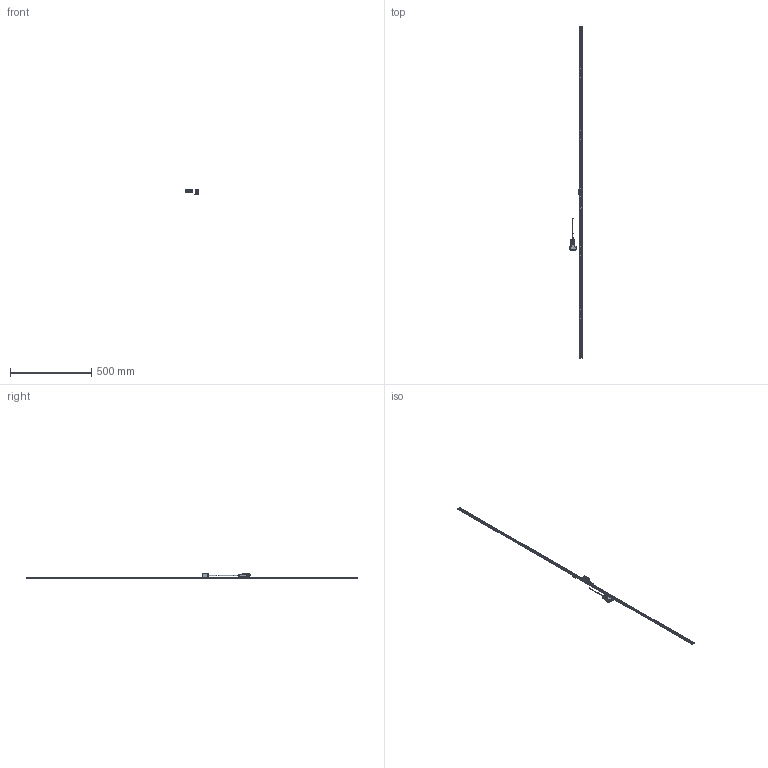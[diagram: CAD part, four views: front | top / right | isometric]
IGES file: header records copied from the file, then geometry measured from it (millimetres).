
Start section: Elysium IGES Interface
Global section: file name: 92HK:\20_商品設計\設計１課\個人\山室\05_作業中雑務\20220810_ST1300 3D HP掲載\ST1300-2000F_G.igs; native system: Creo Elements/Direct Modeling 18.1I  13-Aug-2016; preprocessor: Creo Element/Direct IGES_3D V2.2; author: Unknown; organization: Unknown; date: 20220816.111041; units: millimetre
Bounding box: 83 x 2040 x 30.1 mm (x, y, z)
Volume: 188272.9 mm3; surface area: 111446.3 mm2
Topology: 3 solids, 6 shells, 3702 faces, 10128 edges, 6586 vertices
Faces by surface type: bspline 3702
